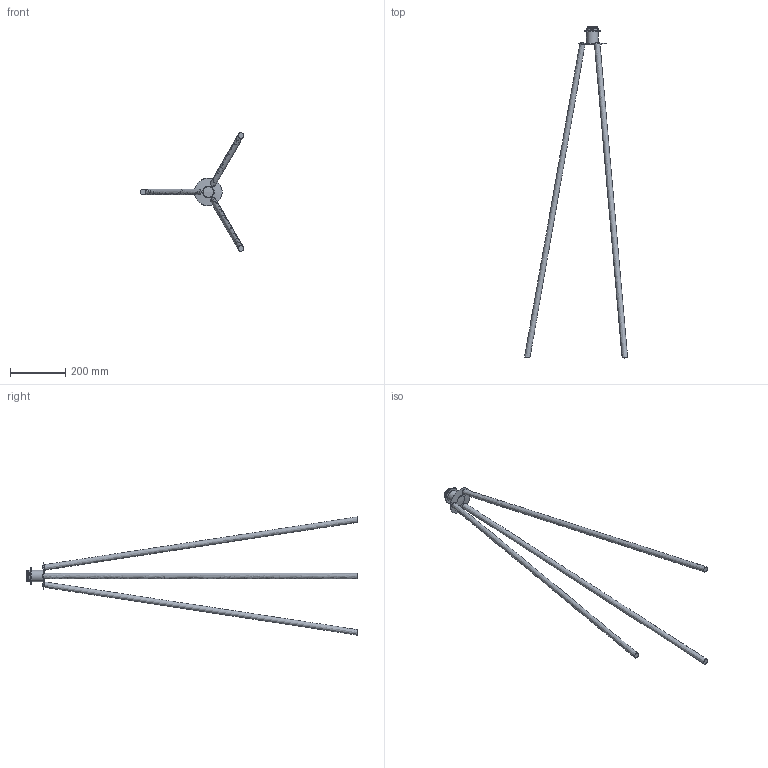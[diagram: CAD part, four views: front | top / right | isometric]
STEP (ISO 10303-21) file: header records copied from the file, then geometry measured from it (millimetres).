
FILE_DESCRIPTION(/* description */ (''),/* implementation_level */ '2;1');
FILE_NAME(/* name */ 'C:/Users/kubaw/OneDrive/Pulpit/Nowy folder/5104_WINSTON v4/5104_WINSTON v4.step',/* time_stamp */ '2021-03-13T10:05:24+01:00',/* author */ (''),/* organization */ (''),/* preprocessor_version */ 'ST-DEVELOPER v18.1',/* originating_system */ 'Autodesk Translation Framework v9.10.0.1330',/* authorisation */ '');
FILE_SCHEMA (('AUTOMOTIVE_DESIGN { 1 0 10303 214 3 1 1 }'));
Length unit declared in the file: millimetre
Products named in the file (1): 5104_WINSTON
Bounding box: 373.56 x 1200 x 428.26 mm (x, y, z)
Volume: 1165694.7 mm3; surface area: 257930.2 mm2
Topology: 16 solids, 16 shells, 120 faces, 235 edges, 147 vertices
Faces by surface type: cylinder 46, plane 44, sphere 15, bspline 12, torus 2, cone 1
Full cylindrical faces by diameter (mm): 17 x3, 32 x1, 34.939 x4, 42 x2, 60 x1
Entity records: 5993 total; most frequent: CARTESIAN_POINT 3566, DIRECTION 489, ORIENTED_EDGE 470, EDGE_CURVE 235, AXIS2_PLACEMENT_3D 198, VERTEX_POINT 147, EDGE_LOOP 122, FACE_OUTER_BOUND 120
